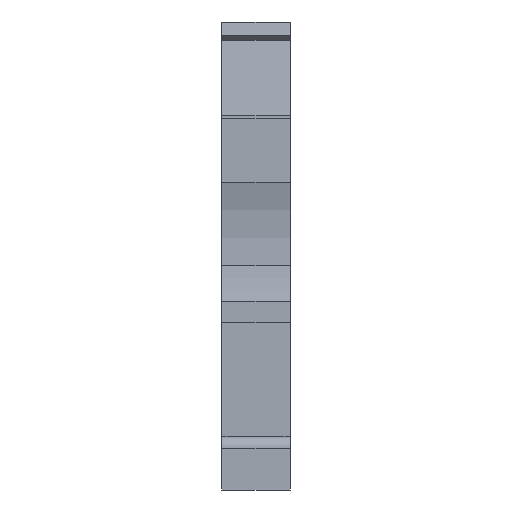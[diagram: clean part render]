
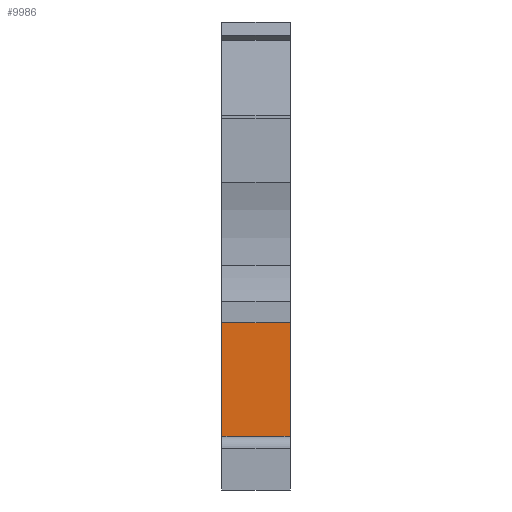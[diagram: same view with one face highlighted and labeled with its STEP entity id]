
A CAD part, front view. The second image highlights one B-rep face of the part: STEP entity #9986.
In plain terms, the highlighted planar face has unit normal (0, -1, 0).
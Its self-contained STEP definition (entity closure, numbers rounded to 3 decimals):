
#887=CARTESIAN_POINT('',(5.15,3.6,12.65));
#888=VERTEX_POINT('',#887);
#895=CARTESIAN_POINT('',(5.15,3.6,1.55));
#896=VERTEX_POINT('',#895);
#897=CARTESIAN_POINT('',(5.15,3.6,1.55));
#898=DIRECTION('',(-0.,-0.,1.));
#899=VECTOR('',#898,11.1);
#900=LINE('',#897,#899);
#901=EDGE_CURVE('',#896,#888,#900,.T.);
#1582=CARTESIAN_POINT('',(1.,3.6,4.05));
#1583=VERTEX_POINT('',#1582);
#1590=CARTESIAN_POINT('',(0.,3.6,4.05));
#1591=VERTEX_POINT('',#1590);
#1592=CARTESIAN_POINT('',(0.,3.6,4.05));
#1593=DIRECTION('',(1.,0.,-0.));
#1594=VECTOR('',#1593,1.);
#1595=LINE('',#1592,#1594);
#1596=EDGE_CURVE('',#1591,#1583,#1595,.T.);
#9937=CARTESIAN_POINT('',(1.,3.6,1.55));
#9938=VERTEX_POINT('',#9937);
#9945=CARTESIAN_POINT('',(1.,3.6,1.55));
#9946=DIRECTION('',(0.,0.,1.));
#9947=VECTOR('',#9946,2.5);
#9948=LINE('',#9945,#9947);
#9949=EDGE_CURVE('',#9938,#1583,#9948,.T.);
#9956=CARTESIAN_POINT('',(0.,3.6,12.65));
#9957=DIRECTION('',(0.,1.,0.));
#9958=DIRECTION('',(0.,0.,1.));
#9959=AXIS2_PLACEMENT_3D('',#9956,#9957,#9958);
#9960=PLANE('',#9959);
#9961=ORIENTED_EDGE('',*,*,#901,.T.);
#9962=CARTESIAN_POINT('',(0.,3.6,12.65));
#9963=VERTEX_POINT('',#9962);
#9964=CARTESIAN_POINT('',(0.,3.6,12.65));
#9965=DIRECTION('',(1.,0.,0.));
#9966=VECTOR('',#9965,5.15);
#9967=LINE('',#9964,#9966);
#9968=EDGE_CURVE('',#9963,#888,#9967,.T.);
#9969=ORIENTED_EDGE('',*,*,#9968,.F.);
#9970=CARTESIAN_POINT('',(0.,3.6,4.05));
#9971=DIRECTION('',(0.,-0.,1.));
#9972=VECTOR('',#9971,8.6);
#9973=LINE('',#9970,#9972);
#9974=EDGE_CURVE('',#1591,#9963,#9973,.T.);
#9975=ORIENTED_EDGE('',*,*,#9974,.F.);
#9976=ORIENTED_EDGE('',*,*,#1596,.T.);
#9977=ORIENTED_EDGE('',*,*,#9949,.F.);
#9978=CARTESIAN_POINT('',(5.15,3.6,1.55));
#9979=DIRECTION('',(-1.,-0.,-0.));
#9980=VECTOR('',#9979,4.15);
#9981=LINE('',#9978,#9980);
#9982=EDGE_CURVE('',#896,#9938,#9981,.T.);
#9983=ORIENTED_EDGE('',*,*,#9982,.F.);
#9984=EDGE_LOOP('',(#9961,#9969,#9975,#9976,#9977,#9983));
#9985=FACE_BOUND('',#9984,.T.);
#9986=ADVANCED_FACE('',(#9985),#9960,.F.);
